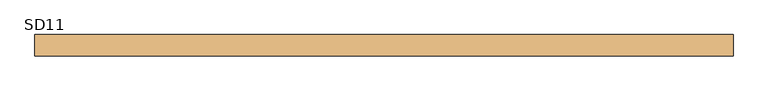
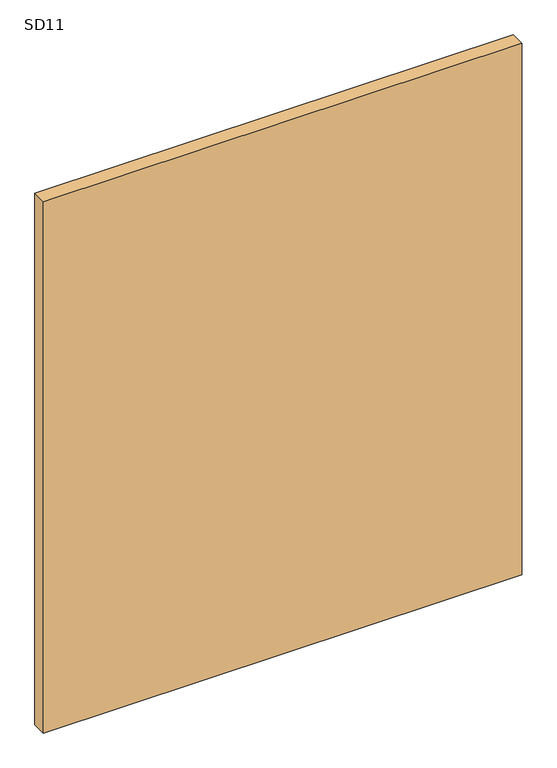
"""IFC4 building model written with IfcOpenShell, lengths in millimetres: door geometry, 営_随閉扉 A階段 1F : SD11."""

import ifcopenshell
import ifcopenshell.guid

model = None  # the IFC model being written
_history = None  # IfcOwnerHistory: only IFC2X3 demands one
_inside = {}  # id of a spatial element -> (the spatial element, [elements in it])
_under = {}  # id of a project, library or spatial element -> (it, [spatial elements below it])
_declared = {}  # id of a project -> (the project, [libraries it declares])
_typed = {}  # id of a type object -> (the type object, [elements of that type])
_made_of = {}  # id of a material, layer set ... -> (it, [elements and type objects made of it])


def new_model(schema):
    """Start an empty IFC model of exactly this schema.

    Asked for "IFC4X3", IfcOpenShell would pick the latest addendum, in which some entities
    have other attributes; the version numbers below select the first issue.
    IFC2X3 requires an IfcOwnerHistory on every rooted entity: one is made here for all.
    """
    global model, _history
    if schema == "IFC4X3":
        model = ifcopenshell.file(schema_version=(4, 3, 0, 0))
    else:
        model = ifcopenshell.file(schema=schema)
    _inside.clear()
    _under.clear()
    _declared.clear()
    _typed.clear()
    _made_of.clear()
    _history = None
    if model.schema == "IFC2X3":
        org = make("IfcOrganization", Name="unknown")
        user = make(
            "IfcPersonAndOrganization",
            ThePerson=make("IfcPerson", FamilyName="unknown"),
            TheOrganization=org,
        )
        app = make(
            "IfcApplication",
            ApplicationDeveloper=org,
            Version="unknown",
            ApplicationFullName="unknown",
            ApplicationIdentifier="unknown",
        )
        _history = make(
            "IfcOwnerHistory",
            OwningUser=user,
            OwningApplication=app,
            ChangeAction="ADDED",
            CreationDate=0,
        )
    return model


def make(cls, **values):
    """One entity of the class cls with the attributes given. An attribute that is None is left unset."""
    return model.create_entity(
        cls, **{name: value for name, value in values.items() if value is not None}
    )


def rooted(cls, **values):
    """An entity with a GlobalId (a new one), such as an element, a storey or a relation."""
    return make(cls, GlobalId=ifcopenshell.guid.new(), OwnerHistory=_history, **values)


def si_unit(unit_type, name, prefix=None):
    """IfcSIUnit, for example si_unit("LENGTHUNIT", "METRE", prefix="MILLI")."""
    return make("IfcSIUnit", UnitType=unit_type, Prefix=prefix, Name=name)


def assignment(units):
    """IfcUnitAssignment: the units of a project."""
    return None if units is None else make("IfcUnitAssignment", Units=units)


def point(xyz):
    """IfcCartesianPoint."""
    return None if xyz is None else make("IfcCartesianPoint", Coordinates=xyz)


def direction(xyz):
    """IfcDirection."""
    return None if xyz is None else make("IfcDirection", DirectionRatios=xyz)


def frame(location, z_axis=None, x_axis=None):
    """IfcAxis2Placement3D, a coordinate frame: its origin and axes. An axis left out is left unset."""
    return make(
        "IfcAxis2Placement3D",
        Location=point(location),
        Axis=direction(z_axis),
        RefDirection=direction(x_axis),
    )


def origin():
    """The frame at (0, 0, 0) with its axes left unset."""
    return frame((0.0, 0.0, 0.0))


def origin_with_axes():
    """The frame at (0, 0, 0) with the z axis (0, 0, 1) and the x axis (1, 0, 0) written out."""
    return frame((0.0, 0.0, 0.0), z_axis=(0.0, 0.0, 1.0), x_axis=(1.0, 0.0, 0.0))


def place(relative_to, where):
    """IfcLocalPlacement: puts the frame where relative to a parent placement (None: the world)."""
    return make(
        "IfcLocalPlacement", PlacementRelTo=relative_to, RelativePlacement=where
    )


def context(
    kind, dimensions, precision=None, world=None, true_north=None, identifier=None
):
    """IfcGeometricRepresentationContext, for example the 3D "Model" context."""
    return make(
        "IfcGeometricRepresentationContext",
        ContextIdentifier=identifier,
        ContextType=kind,
        CoordinateSpaceDimension=dimensions,
        Precision=precision,
        WorldCoordinateSystem=world,
        TrueNorth=true_north,
    )


def project(units=None, contexts=None):
    """IfcProject with its units and contexts."""
    return rooted(
        "IfcProject",
        Name="project",
        RepresentationContexts=contexts,
        UnitsInContext=assignment(units),
    )


def spatial(cls, under=None, at=None, **own):
    """A site, building, storey or space (cls), placed at a placement, below another one or the project."""
    s = rooted(cls, ObjectPlacement=at, **own)
    if under is not None:
        _under.setdefault(under.id(), (under, []))[1].append(s)
    return s


def polyline(points):
    """IfcPolyline through the points."""
    return make("IfcPolyline", Points=[point(p) for p in points])


def outline(outer, holes=None, kind="AREA"):
    """IfcArbitraryClosedProfileDef: a profile drawn as a closed curve; with holes, ...WithVoids."""
    if holes is None:
        return make("IfcArbitraryClosedProfileDef", ProfileType=kind, OuterCurve=outer)
    return make(
        "IfcArbitraryProfileDefWithVoids",
        ProfileType=kind,
        OuterCurve=outer,
        InnerCurves=holes,
    )


def extrude(swept, where, along, depth):
    """IfcExtrudedAreaSolid: the profile swept, set in the frame where, extruded along a direction by depth."""
    return make(
        "IfcExtrudedAreaSolid",
        SweptArea=swept,
        Position=where,
        ExtrudedDirection=direction(along),
        Depth=depth,
    )


def shape(context_of_items, identifier, shape_type, items):
    """IfcShapeRepresentation: the items that make up one representation, for example the "Body"."""
    return make(
        "IfcShapeRepresentation",
        ContextOfItems=context_of_items,
        RepresentationIdentifier=identifier,
        RepresentationType=shape_type,
        Items=items,
    )


def source(mapping_origin, context_of_items, identifier, shape_type, items):
    """IfcRepresentationMap: a shape defined once, which mapped items show again and again."""
    return make(
        "IfcRepresentationMap",
        MappingOrigin=mapping_origin,
        MappedRepresentation=shape(context_of_items, identifier, shape_type, items),
    )


def transform(
    local_origin,
    x_axis=None,
    y_axis=None,
    z_axis=None,
    scale=None,
    scale2=None,
    scale3=None,
    uniform=True,
):
    """IfcCartesianTransformationOperator3D, or its non-uniform kind. x_axis, y_axis, z_axis: its Axis1, 2, 3."""
    if uniform:
        return make(
            "IfcCartesianTransformationOperator3D",
            Axis1=direction(x_axis),
            Axis2=direction(y_axis),
            LocalOrigin=point(local_origin),
            Scale=scale,
            Axis3=direction(z_axis),
        )
    return make(
        "IfcCartesianTransformationOperator3DnonUniform",
        Axis1=direction(x_axis),
        Axis2=direction(y_axis),
        LocalOrigin=point(local_origin),
        Scale=scale,
        Axis3=direction(z_axis),
        Scale2=scale2,
        Scale3=scale3,
    )


def mapped(mapping_source, mapping_target):
    """IfcMappedItem: shows the shape of a source again, moved by a transform."""
    return make(
        "IfcMappedItem", MappingSource=mapping_source, MappingTarget=mapping_target
    )


def made_of(thing, what):
    """Note that an element or type object is made of a material, layer set ...; save() writes the relation."""
    if what is not None:
        _made_of.setdefault(what.id(), (what, []))[1].append(thing)
    return thing


def element(
    cls,
    number,
    at=None,
    inside=None,
    cuts=None,
    type_object=None,
    material=None,
    context=None,
    identifier="Body",
    shape_type=None,
    held_by="IfcProductDefinitionShape",
    body=None,
    shapes=None,
    **own,
):
    """One element of the class cls, such as IfcWall. Its Tag is "e" and its number.

    at: its placement. inside: the storey or other place that contains it. cuts: it is an
    opening in that element (IfcRelVoidsElement). A single representation is given by context,
    identifier, shape_type and body (its items); several are given by shapes. held_by: the class
    of the entity that holds the representations. save() writes the other relations.
    """
    e = rooted(cls, Tag="e%d" % number, ObjectPlacement=at, **own)
    if body is not None:
        shapes = [shape(context, identifier, shape_type, body)]
    if shapes is not None:
        e.Representation = make(held_by, Representations=shapes)
    if inside is not None:
        _inside.setdefault(inside.id(), (inside, []))[1].append(e)
    if cuts is not None:
        rooted(
            "IfcRelVoidsElement", RelatingBuildingElement=cuts, RelatedOpeningElement=e
        )
    if type_object is not None:
        _typed.setdefault(type_object.id(), (type_object, []))[1].append(e)
    return made_of(e, material)


def aggregate(whole, parts):
    """IfcRelAggregates: a whole, such as a stair, and the parts it consists of."""
    return rooted("IfcRelAggregates", RelatingObject=whole, RelatedObjects=parts)


def save(model, path):
    """Write the relations noted so far, then the file.

    IfcRelAggregates (storeys below a building ...), IfcRelContainedInSpatialStructure (elements
    in a storey), IfcRelDefinesByType, IfcRelAssociatesMaterial and IfcRelDeclares: one each for
    every whole, place, type object, material and project.
    """
    for whole, parts in _under.values():
        aggregate(whole, parts)
    for where, things in _inside.values():
        rooted(
            "IfcRelContainedInSpatialStructure",
            RelatedElements=things,
            RelatingStructure=where,
        )
    for kind, things in _typed.values():
        rooted("IfcRelDefinesByType", RelatedObjects=things, RelatingType=kind)
    for what, things in _made_of.values():
        rooted("IfcRelAssociatesMaterial", RelatedObjects=things, RelatingMaterial=what)
    for by, libraries in _declared.values():
        rooted("IfcRelDeclares", RelatingContext=by, RelatedDefinitions=libraries)
    model.write(path)


def sd11_5945a8e4(model_context):
    return source(origin(), model_context, "Body", "SweptSolid", [
        extrude(outline(polyline([(975.0, 200.0), (975.0, 140.0), (-975.0, 140.0), (-975.0, 200.0), (975.0, 200.0)])), origin_with_axes(), (0.0, 0.0, 1.0), 2290.0),
    ])


if __name__ == "__main__":
    model = new_model("IFC4")
    model_context = context("Model", 3, world=origin())
    ifc_project = project(units=[si_unit("LENGTHUNIT", "METRE", prefix="MILLI")], contexts=[model_context])
    site = spatial("IfcSite", under=ifc_project)
    building = spatial("IfcBuilding", under=site)
    placement = place(None, origin())
    sd11_shape = sd11_5945a8e4(model_context)
    element("IfcDoor", 1, ObjectType="営_随閉扉 A階段 1F : SD11", at=placement, inside=building, context=model_context, shape_type="MappedRepresentation", body=[
        mapped(sd11_shape, transform((0.0, 0.0, 0.0), x_axis=(1.0, 0.0, 0.0), y_axis=(0.0, 1.0, 0.0), z_axis=(0.0, 0.0, 1.0))),
    ])
    save(model, "model.ifc")
